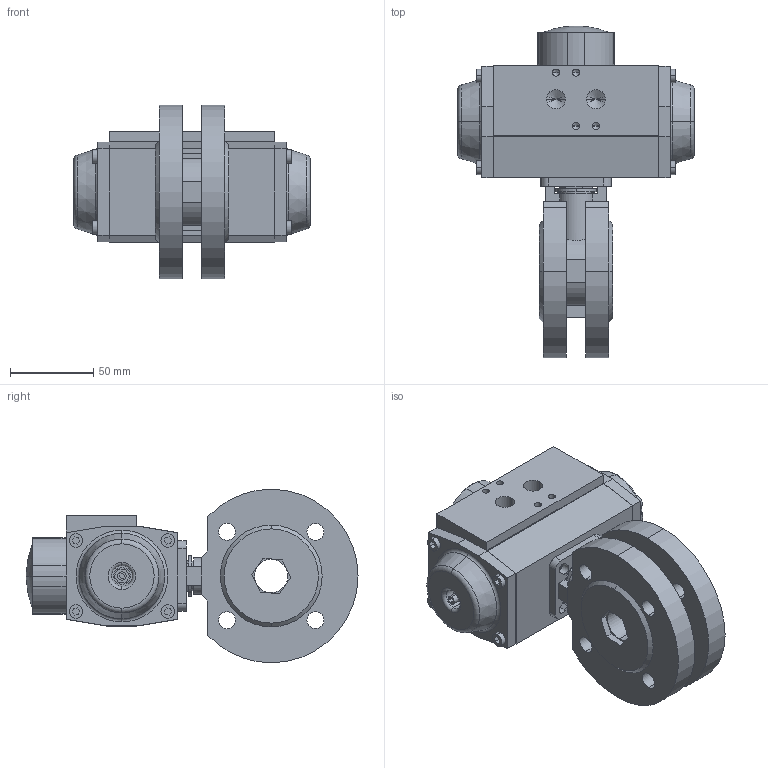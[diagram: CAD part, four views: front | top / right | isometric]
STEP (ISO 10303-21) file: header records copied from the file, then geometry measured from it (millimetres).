
FILE_DESCRIPTION (( 'STEP AP214' ), '1' );
FILE_NAME ('S15D DN20+ AP1.STEP', '2012-04-24T08:19:19', ( 'Jan' ), ( '' ), 'SwSTEP 2.0', 'SolidWorks 2011', '' );
FILE_SCHEMA (( 'AUTOMOTIVE_DESIGN' ));
Length unit declared in the file: millimetre
Products named in the file (3): S15D DN20+ AP1; S15D KK DN20 PN16; AP1_Default<As Machined>
Assembly tree (2 placements, depth 2):
  S15D DN20+ AP1
    S15D KK DN20 PN16
    AP1_Default<As Machined>
Bounding box: 142 x 198.99 x 104 mm (x, y, z)
Volume: 812225 mm3; surface area: 111818.9 mm2
Topology: 12 solids, 12 shells, 443 faces, 1111 edges, 707 vertices
Faces by surface type: plane 255, cylinder 130, cone 44, torus 12, sphere 2
Entity records: 14460 total; most frequent: DIRECTION 2277, CARTESIAN_POINT 2265, ORIENTED_EDGE 2150, EDGE_CURVE 1075, LINE 763, VECTOR 763, AXIS2_PLACEMENT_3D 757, VERTEX_POINT 707
